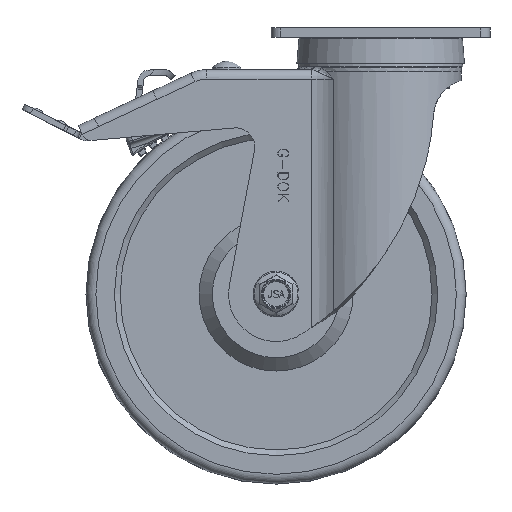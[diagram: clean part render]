
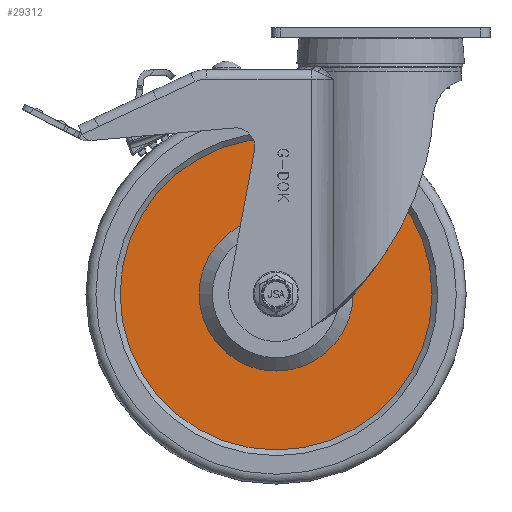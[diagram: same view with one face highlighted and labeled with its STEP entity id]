
A CAD part, front view. The second image highlights one B-rep face of the part: STEP entity #29312.
In plain terms, the highlighted planar face has unit normal (0, -1, 0).
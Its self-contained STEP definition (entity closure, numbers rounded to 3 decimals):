
#1189=FACE_BOUND('',#4338,.T.);
#1689=PLANE('',#31054);
#2650=FACE_OUTER_BOUND('',#4337,.T.);
#4337=EDGE_LOOP('',(#20272,#20273));
#4338=EDGE_LOOP('',(#20274,#20275));
#11865=CIRCLE('',#31052,40.5);
#11866=CIRCLE('',#31053,40.5);
#11867=CIRCLE('',#31055,82.);
#11868=CIRCLE('',#31056,82.);
#12734=VERTEX_POINT('',#42149);
#12735=VERTEX_POINT('',#42150);
#12736=VERTEX_POINT('',#42155);
#12737=VERTEX_POINT('',#42156);
#15691=EDGE_CURVE('',#12734,#12735,#11865,.T.);
#15692=EDGE_CURVE('',#12735,#12734,#11866,.T.);
#15694=EDGE_CURVE('',#12736,#12737,#11867,.T.);
#15695=EDGE_CURVE('',#12737,#12736,#11868,.T.);
#20272=ORIENTED_EDGE('',*,*,#15694,.F.);
#20273=ORIENTED_EDGE('',*,*,#15695,.F.);
#20274=ORIENTED_EDGE('',*,*,#15691,.T.);
#20275=ORIENTED_EDGE('',*,*,#15692,.T.);
#29312=ADVANCED_FACE('',(#2650,#1189),#1689,.T.);
#31052=AXIS2_PLACEMENT_3D('',#42151,#33541,#33542);
#31053=AXIS2_PLACEMENT_3D('',#42152,#33543,#33544);
#31054=AXIS2_PLACEMENT_3D('',#42154,#33546,#33547);
#31055=AXIS2_PLACEMENT_3D('',#42157,#33548,#33549);
#31056=AXIS2_PLACEMENT_3D('',#42158,#33550,#33551);
#33541=DIRECTION('center_axis',(0.,1.,0.));
#33542=DIRECTION('ref_axis',(0.,0.,
1.));
#33543=DIRECTION('center_axis',(0.,1.,0.));
#33544=DIRECTION('ref_axis',(0.,0.,
1.));
#33546=DIRECTION('center_axis',(0.,-1.,0.));
#33547=DIRECTION('ref_axis',(0.,0.,
-1.));
#33548=DIRECTION('center_axis',(0.,1.,0.));
#33549=DIRECTION('ref_axis',(0.,0.,
1.));
#33550=DIRECTION('center_axis',(0.,1.,0.));
#33551=DIRECTION('ref_axis',(0.,0.,
1.));
#42149=CARTESIAN_POINT('',(-55.,-17.,-99.5));
#42150=CARTESIAN_POINT('',(-55.,-17.,-180.5));
#42151=CARTESIAN_POINT('Origin',(-55.,-17.,-140.));
#42152=CARTESIAN_POINT('Origin',(-55.,-17.,-140.));
#42154=CARTESIAN_POINT('Origin',(-55.,-17.,-58.));
#42155=CARTESIAN_POINT('',(-55.,-17.,-58.));
#42156=CARTESIAN_POINT('',(-55.,-17.,-222.));
#42157=CARTESIAN_POINT('Origin',(-55.,-17.,-140.));
#42158=CARTESIAN_POINT('Origin',(-55.,-17.,-140.));
